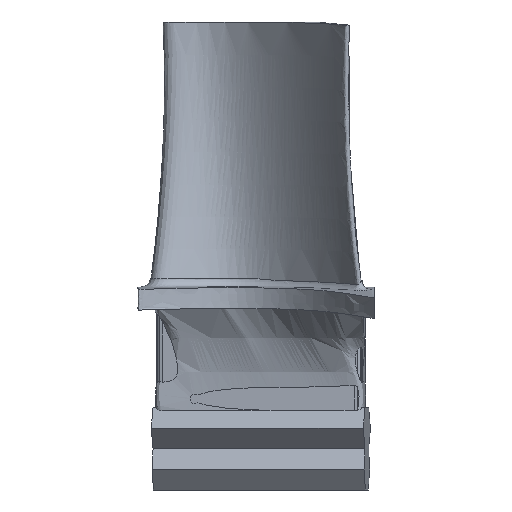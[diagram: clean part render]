
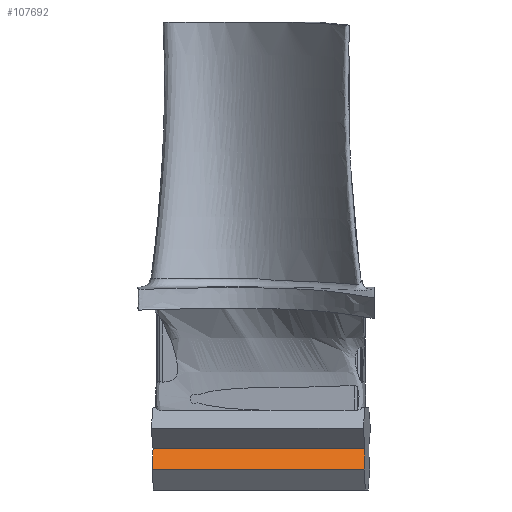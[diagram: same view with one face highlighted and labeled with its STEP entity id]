
A CAD part, front view. The second image highlights one B-rep face of the part: STEP entity #107692.
In plain terms, the highlighted planar face has unit normal (-0.076, -0.865, 0.496).
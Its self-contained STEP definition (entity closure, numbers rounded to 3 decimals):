
#82588 = PLANE('',#82589);
#82589 = AXIS2_PLACEMENT_3D('',#82590,#82591,#82592);
#82590 = CARTESIAN_POINT('',(-16.178,-3.788,221.5));
#82591 = DIRECTION('',(0.068,0.778,0.625)
  );
#82592 = DIRECTION('',(0.055,0.622,-0.781)
  );
#82616 = PLANE('',#82617);
#82617 = AXIS2_PLACEMENT_3D('',#82618,#82619,#82620);
#82618 = CARTESIAN_POINT('',(20.303,-1.466,
    225.393));
#82619 = DIRECTION('',(0.996,-0.087,0.));
#82620 = DIRECTION('',(0.087,0.996,0.));
#82670 = PLANE('',#82671);
#82671 = AXIS2_PLACEMENT_3D('',#82672,#82673,#82674);
#82672 = CARTESIAN_POINT('',(-15.697,1.691,
    225.393));
#82673 = DIRECTION('',(0.996,-0.087,0.));
#82674 = DIRECTION('',(0.087,0.996,0.));
#91596 = EDGE_CURVE('',#91597,#91599,#91601,.T.);
#91597 = VERTEX_POINT('',#91598);
#91598 = CARTESIAN_POINT('',(-16.178,-3.788,221.5));
#91599 = VERTEX_POINT('',#91600);
#91600 = CARTESIAN_POINT('',(19.822,-6.945,221.5));
#91601 = SURFACE_CURVE('',#91602,(#91606,#91613),.PCURVE_S1.);
#91602 = LINE('',#91603,#91604);
#91603 = CARTESIAN_POINT('',(-16.178,-3.788,221.5));
#91604 = VECTOR('',#91605,1.);
#91605 = DIRECTION('',(0.996,-0.087,0.));
#91606 = PCURVE('',#82588,#91607);
#91607 = DEFINITIONAL_REPRESENTATION('',(#91608),#91612);
#91608 = LINE('',#91609,#91610);
#91609 = CARTESIAN_POINT('',(0.,0.));
#91610 = VECTOR('',#91611,1.);
#91611 = DIRECTION('',(0.,-1.));
#91612 = ( GEOMETRIC_REPRESENTATION_CONTEXT(2) 
PARAMETRIC_REPRESENTATION_CONTEXT() REPRESENTATION_CONTEXT('2D SPACE',''
  ) );
#91613 = PCURVE('',#91614,#91619);
#91614 = PLANE('',#91615);
#91615 = AXIS2_PLACEMENT_3D('',#91616,#91617,#91618);
#91616 = CARTESIAN_POINT('',(-16.003,-1.795,225.));
#91617 = DIRECTION('',(0.076,0.865,-0.496
    ));
#91618 = DIRECTION('',(-0.043,-0.494,
    -0.868));
#91619 = DEFINITIONAL_REPRESENTATION('',(#91620),#91624);
#91620 = LINE('',#91621,#91622);
#91621 = CARTESIAN_POINT('',(4.031,0.));
#91622 = VECTOR('',#91623,1.);
#91623 = DIRECTION('',(0.,-1.));
#91624 = ( GEOMETRIC_REPRESENTATION_CONTEXT(2) 
PARAMETRIC_REPRESENTATION_CONTEXT() REPRESENTATION_CONTEXT('2D SPACE',''
  ) );
#91703 = VERTEX_POINT('',#91704);
#91704 = CARTESIAN_POINT('',(-16.003,-1.795,225.));
#91718 = PLANE('',#91719);
#91719 = AXIS2_PLACEMENT_3D('',#91720,#91721,#91722);
#91720 = CARTESIAN_POINT('',(-16.309,-5.282,228.5));
#91721 = DIRECTION('',(0.062,0.704,0.707)
  );
#91722 = DIRECTION('',(0.062,0.704,-0.707)
  );
#91730 = EDGE_CURVE('',#91703,#91597,#91731,.T.);
#91731 = SURFACE_CURVE('',#91732,(#91736,#91743),.PCURVE_S1.);
#91732 = LINE('',#91733,#91734);
#91733 = CARTESIAN_POINT('',(-16.003,-1.795,225.));
#91734 = VECTOR('',#91735,1.);
#91735 = DIRECTION('',(-0.043,-0.494,
    -0.868));
#91736 = PCURVE('',#82670,#91737);
#91737 = DEFINITIONAL_REPRESENTATION('',(#91738),#91742);
#91738 = LINE('',#91739,#91740);
#91739 = CARTESIAN_POINT('',(-3.5,-0.393));
#91740 = VECTOR('',#91741,1.);
#91741 = DIRECTION('',(-0.496,-0.868));
#91742 = ( GEOMETRIC_REPRESENTATION_CONTEXT(2) 
PARAMETRIC_REPRESENTATION_CONTEXT() REPRESENTATION_CONTEXT('2D SPACE',''
  ) );
#91743 = PCURVE('',#91614,#91744);
#91744 = DEFINITIONAL_REPRESENTATION('',(#91745),#91749);
#91745 = LINE('',#91746,#91747);
#91746 = CARTESIAN_POINT('',(-0.,0.));
#91747 = VECTOR('',#91748,1.);
#91748 = DIRECTION('',(1.,0.));
#91749 = ( GEOMETRIC_REPRESENTATION_CONTEXT(2) 
PARAMETRIC_REPRESENTATION_CONTEXT() REPRESENTATION_CONTEXT('2D SPACE',''
  ) );
#91915 = VERTEX_POINT('',#91916);
#91916 = CARTESIAN_POINT('',(19.997,-4.953,225.));
#91937 = EDGE_CURVE('',#91915,#91599,#91938,.T.);
#91938 = SURFACE_CURVE('',#91939,(#91943,#91950),.PCURVE_S1.);
#91939 = LINE('',#91940,#91941);
#91940 = CARTESIAN_POINT('',(19.997,-4.953,225.));
#91941 = VECTOR('',#91942,1.);
#91942 = DIRECTION('',(-0.043,-0.494,
    -0.868));
#91943 = PCURVE('',#82616,#91944);
#91944 = DEFINITIONAL_REPRESENTATION('',(#91945),#91949);
#91945 = LINE('',#91946,#91947);
#91946 = CARTESIAN_POINT('',(-3.5,-0.393));
#91947 = VECTOR('',#91948,1.);
#91948 = DIRECTION('',(-0.496,-0.868));
#91949 = ( GEOMETRIC_REPRESENTATION_CONTEXT(2) 
PARAMETRIC_REPRESENTATION_CONTEXT() REPRESENTATION_CONTEXT('2D SPACE',''
  ) );
#91950 = PCURVE('',#91614,#91951);
#91951 = DEFINITIONAL_REPRESENTATION('',(#91952),#91956);
#91952 = LINE('',#91953,#91954);
#91953 = CARTESIAN_POINT('',(0.,-36.138));
#91954 = VECTOR('',#91955,1.);
#91955 = DIRECTION('',(1.,0.));
#91956 = ( GEOMETRIC_REPRESENTATION_CONTEXT(2) 
PARAMETRIC_REPRESENTATION_CONTEXT() REPRESENTATION_CONTEXT('2D SPACE',''
  ) );
#107692 = ADVANCED_FACE('',(#107693),#91614,.F.);
#107693 = FACE_BOUND('',#107694,.F.);
#107694 = EDGE_LOOP('',(#107695,#107716,#107717,#107718));
#107695 = ORIENTED_EDGE('',*,*,#107696,.T.);
#107696 = EDGE_CURVE('',#91703,#91915,#107697,.T.);
#107697 = SURFACE_CURVE('',#107698,(#107702,#107709),.PCURVE_S1.);
#107698 = LINE('',#107699,#107700);
#107699 = CARTESIAN_POINT('',(-16.003,-1.795,225.));
#107700 = VECTOR('',#107701,1.);
#107701 = DIRECTION('',(0.996,-0.087,0.));
#107702 = PCURVE('',#91614,#107703);
#107703 = DEFINITIONAL_REPRESENTATION('',(#107704),#107708);
#107704 = LINE('',#107705,#107706);
#107705 = CARTESIAN_POINT('',(-0.,0.));
#107706 = VECTOR('',#107707,1.);
#107707 = DIRECTION('',(0.,-1.));
#107708 = ( GEOMETRIC_REPRESENTATION_CONTEXT(2) 
PARAMETRIC_REPRESENTATION_CONTEXT() REPRESENTATION_CONTEXT('2D SPACE',''
  ) );
#107709 = PCURVE('',#91718,#107710);
#107710 = DEFINITIONAL_REPRESENTATION('',(#107711),#107715);
#107711 = LINE('',#107712,#107713);
#107712 = CARTESIAN_POINT('',(4.95,0.));
#107713 = VECTOR('',#107714,1.);
#107714 = DIRECTION('',(0.,-1.));
#107715 = ( GEOMETRIC_REPRESENTATION_CONTEXT(2) 
PARAMETRIC_REPRESENTATION_CONTEXT() REPRESENTATION_CONTEXT('2D SPACE',''
  ) );
#107716 = ORIENTED_EDGE('',*,*,#91937,.T.);
#107717 = ORIENTED_EDGE('',*,*,#91596,.F.);
#107718 = ORIENTED_EDGE('',*,*,#91730,.F.);
